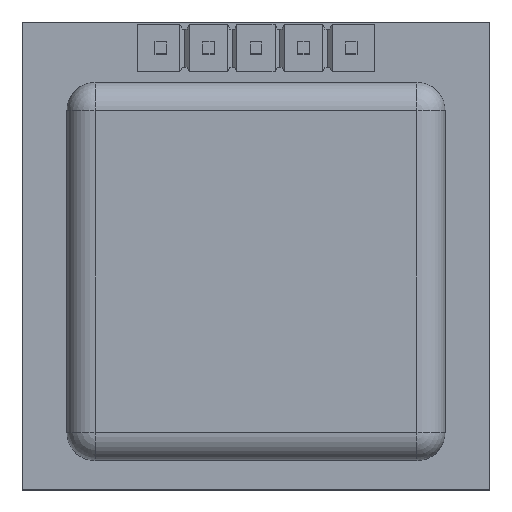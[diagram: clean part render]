
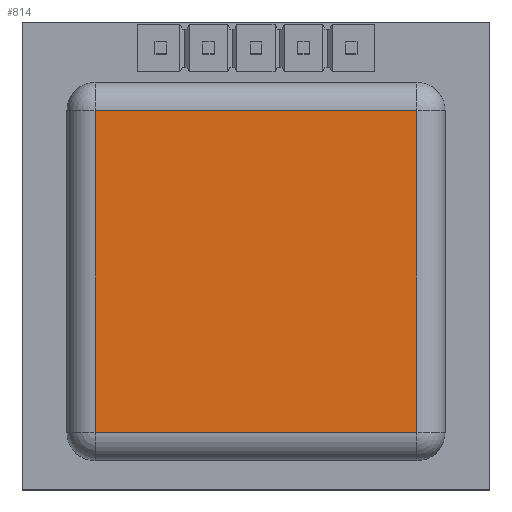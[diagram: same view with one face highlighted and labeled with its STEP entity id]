
A CAD part, top view. The second image highlights one B-rep face of the part: STEP entity #814.
In plain terms, the highlighted planar face has unit normal (0, 0, 1) as drawn and (0, 1, 0) by its records, which use the part's own axes.
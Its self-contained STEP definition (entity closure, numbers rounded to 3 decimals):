
#554 = CYLINDRICAL_SURFACE('',#555,1.5);
#555 = AXIS2_PLACEMENT_3D('',#556,#557,#558);
#556 = CARTESIAN_POINT('',(1.5,4.5,0.));
#557 = DIRECTION('',(0.,0.,1.));
#558 = DIRECTION('',(1.,0.,-0.));
#630 = CYLINDRICAL_SURFACE('',#631,1.5);
#631 = AXIS2_PLACEMENT_3D('',#632,#633,#634);
#632 = CARTESIAN_POINT('',(0.,4.5,-1.5));
#633 = DIRECTION('',(1.,0.,0.));
#634 = DIRECTION('',(0.,0.,-1.));
#684 = CYLINDRICAL_SURFACE('',#685,1.5);
#685 = AXIS2_PLACEMENT_3D('',#686,#687,#688);
#686 = CARTESIAN_POINT('',(18.7,4.5,0.));
#687 = DIRECTION('',(0.,0.,-1.));
#688 = DIRECTION('',(-1.,0.,0.));
#782 = CYLINDRICAL_SURFACE('',#783,1.5);
#783 = AXIS2_PLACEMENT_3D('',#784,#785,#786);
#784 = CARTESIAN_POINT('',(0.,4.5,-18.7));
#785 = DIRECTION('',(-1.,0.,0.));
#786 = DIRECTION('',(0.,0.,1.));
#814 = ADVANCED_FACE('',(#815),#829,.F.);
#815 = FACE_BOUND('',#816,.T.);
#816 = EDGE_LOOP('',(#817,#847,#870,#893));
#817 = ORIENTED_EDGE('',*,*,#818,.T.);
#818 = EDGE_CURVE('',#819,#821,#823,.T.);
#819 = VERTEX_POINT('',#820);
#820 = CARTESIAN_POINT('',(18.7,6.,-1.5));
#821 = VERTEX_POINT('',#822);
#822 = CARTESIAN_POINT('',(18.7,6.,-18.7));
#823 = SURFACE_CURVE('',#824,(#828,#840),.PCURVE_S1.);
#824 = LINE('',#825,#826);
#825 = CARTESIAN_POINT('',(18.7,6.,0.));
#826 = VECTOR('',#827,1.);
#827 = DIRECTION('',(0.,0.,-1.));
#828 = PCURVE('',#829,#834);
#829 = PLANE('',#830);
#830 = AXIS2_PLACEMENT_3D('',#831,#832,#833);
#831 = CARTESIAN_POINT('',(0.,6.,0.));
#832 = DIRECTION('',(0.,-1.,0.));
#833 = DIRECTION('',(0.,-0.,-1.));
#834 = DEFINITIONAL_REPRESENTATION('',(#835),#839);
#835 = LINE('',#836,#837);
#836 = CARTESIAN_POINT('',(0.,18.7));
#837 = VECTOR('',#838,1.);
#838 = DIRECTION('',(1.,0.));
#839 = ( GEOMETRIC_REPRESENTATION_CONTEXT(2) 
PARAMETRIC_REPRESENTATION_CONTEXT() REPRESENTATION_CONTEXT('2D SPACE',''
  ) );
#840 = PCURVE('',#684,#841);
#841 = DEFINITIONAL_REPRESENTATION('',(#842),#846);
#842 = LINE('',#843,#844);
#843 = CARTESIAN_POINT('',(1.571,0.));
#844 = VECTOR('',#845,1.);
#845 = DIRECTION('',(0.,1.));
#846 = ( GEOMETRIC_REPRESENTATION_CONTEXT(2) 
PARAMETRIC_REPRESENTATION_CONTEXT() REPRESENTATION_CONTEXT('2D SPACE',''
  ) );
#847 = ORIENTED_EDGE('',*,*,#848,.T.);
#848 = EDGE_CURVE('',#821,#849,#851,.T.);
#849 = VERTEX_POINT('',#850);
#850 = CARTESIAN_POINT('',(1.5,6.,-18.7));
#851 = SURFACE_CURVE('',#852,(#856,#863),.PCURVE_S1.);
#852 = LINE('',#853,#854);
#853 = CARTESIAN_POINT('',(0.,6.,-18.7));
#854 = VECTOR('',#855,1.);
#855 = DIRECTION('',(-1.,0.,0.));
#856 = PCURVE('',#829,#857);
#857 = DEFINITIONAL_REPRESENTATION('',(#858),#862);
#858 = LINE('',#859,#860);
#859 = CARTESIAN_POINT('',(18.7,0.));
#860 = VECTOR('',#861,1.);
#861 = DIRECTION('',(-0.,-1.));
#862 = ( GEOMETRIC_REPRESENTATION_CONTEXT(2) 
PARAMETRIC_REPRESENTATION_CONTEXT() REPRESENTATION_CONTEXT('2D SPACE',''
  ) );
#863 = PCURVE('',#782,#864);
#864 = DEFINITIONAL_REPRESENTATION('',(#865),#869);
#865 = LINE('',#866,#867);
#866 = CARTESIAN_POINT('',(1.571,0.));
#867 = VECTOR('',#868,1.);
#868 = DIRECTION('',(0.,1.));
#869 = ( GEOMETRIC_REPRESENTATION_CONTEXT(2) 
PARAMETRIC_REPRESENTATION_CONTEXT() REPRESENTATION_CONTEXT('2D SPACE',''
  ) );
#870 = ORIENTED_EDGE('',*,*,#871,.T.);
#871 = EDGE_CURVE('',#849,#872,#874,.T.);
#872 = VERTEX_POINT('',#873);
#873 = CARTESIAN_POINT('',(1.5,6.,-1.5));
#874 = SURFACE_CURVE('',#875,(#879,#886),.PCURVE_S1.);
#875 = LINE('',#876,#877);
#876 = CARTESIAN_POINT('',(1.5,6.,0.));
#877 = VECTOR('',#878,1.);
#878 = DIRECTION('',(0.,0.,1.));
#879 = PCURVE('',#829,#880);
#880 = DEFINITIONAL_REPRESENTATION('',(#881),#885);
#881 = LINE('',#882,#883);
#882 = CARTESIAN_POINT('',(0.,1.5));
#883 = VECTOR('',#884,1.);
#884 = DIRECTION('',(-1.,0.));
#885 = ( GEOMETRIC_REPRESENTATION_CONTEXT(2) 
PARAMETRIC_REPRESENTATION_CONTEXT() REPRESENTATION_CONTEXT('2D SPACE',''
  ) );
#886 = PCURVE('',#554,#887);
#887 = DEFINITIONAL_REPRESENTATION('',(#888),#892);
#888 = LINE('',#889,#890);
#889 = CARTESIAN_POINT('',(1.571,0.));
#890 = VECTOR('',#891,1.);
#891 = DIRECTION('',(0.,1.));
#892 = ( GEOMETRIC_REPRESENTATION_CONTEXT(2) 
PARAMETRIC_REPRESENTATION_CONTEXT() REPRESENTATION_CONTEXT('2D SPACE',''
  ) );
#893 = ORIENTED_EDGE('',*,*,#894,.T.);
#894 = EDGE_CURVE('',#872,#819,#895,.T.);
#895 = SURFACE_CURVE('',#896,(#900,#907),.PCURVE_S1.);
#896 = LINE('',#897,#898);
#897 = CARTESIAN_POINT('',(0.,6.,-1.5));
#898 = VECTOR('',#899,1.);
#899 = DIRECTION('',(1.,0.,0.));
#900 = PCURVE('',#829,#901);
#901 = DEFINITIONAL_REPRESENTATION('',(#902),#906);
#902 = LINE('',#903,#904);
#903 = CARTESIAN_POINT('',(1.5,0.));
#904 = VECTOR('',#905,1.);
#905 = DIRECTION('',(0.,1.));
#906 = ( GEOMETRIC_REPRESENTATION_CONTEXT(2) 
PARAMETRIC_REPRESENTATION_CONTEXT() REPRESENTATION_CONTEXT('2D SPACE',''
  ) );
#907 = PCURVE('',#630,#908);
#908 = DEFINITIONAL_REPRESENTATION('',(#909),#913);
#909 = LINE('',#910,#911);
#910 = CARTESIAN_POINT('',(1.571,0.));
#911 = VECTOR('',#912,1.);
#912 = DIRECTION('',(0.,1.));
#913 = ( GEOMETRIC_REPRESENTATION_CONTEXT(2) 
PARAMETRIC_REPRESENTATION_CONTEXT() REPRESENTATION_CONTEXT('2D SPACE',''
  ) );
